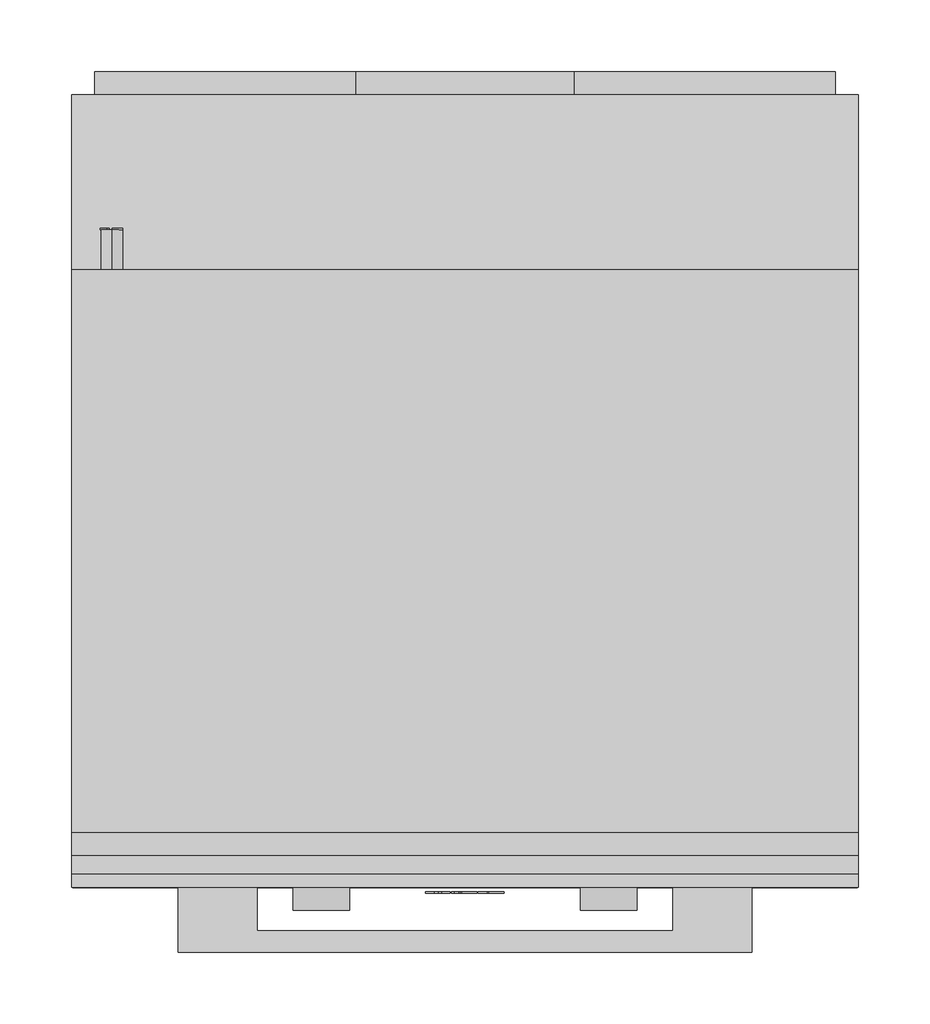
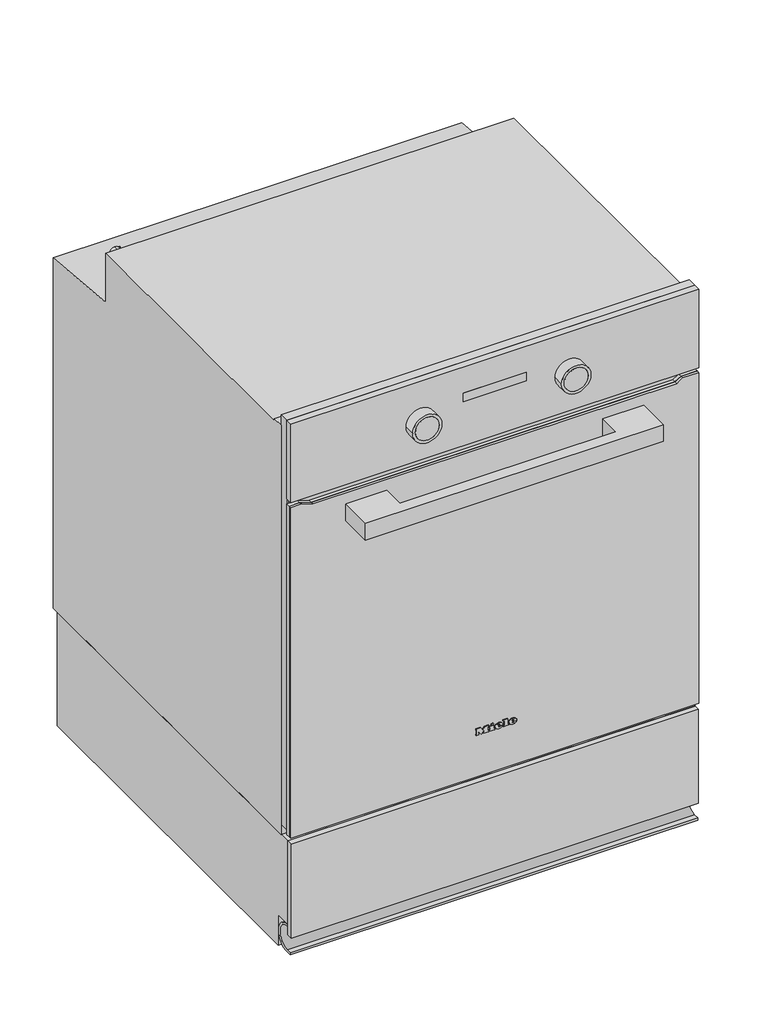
# Not in any storey: 1 proxy.
"""IFC4 building model written with IfcOpenShell, lengths in millimetres."""

from ifc_helpers import new_model, si_unit, origin, place, context, project, spatial, transform, mapped, element, save
from components import specialty_equipment_a02c2a55

model = new_model("IFC4")

# Units and contexts
model_context = context("Model", 3, world=origin())
ifc_project = project(units=[si_unit("LENGTHUNIT", "METRE", prefix="MILLI")], contexts=[model_context])

# Site, building
site = spatial("IfcSite", under=ifc_project)
building = spatial("IfcBuilding", under=site)

# Proxy
placement = place(None, origin())
specialty_equipment_shape = specialty_equipment_a02c2a55(model_context)
element("IfcBuildingElementProxy", 1, Name="12146050_CH_H2861-55B_BRWS : 22286118_CH_12146050_H2861-55B_BRWS", ObjectType="12146050_CH_H2861-55B_BRWS : 22286118_CH_12146050_H2861-55B_BRWS", at=placement, inside=building, context=model_context, shape_type="MappedRepresentation", body=[
    mapped(specialty_equipment_shape, transform((0.0, 0.0, 0.0), x_axis=(1.0, 0.0, 0.0), y_axis=(0.0, 1.0, 0.0), z_axis=(0.0, 0.0, 1.0))),
])

save(model, "model.ifc")
